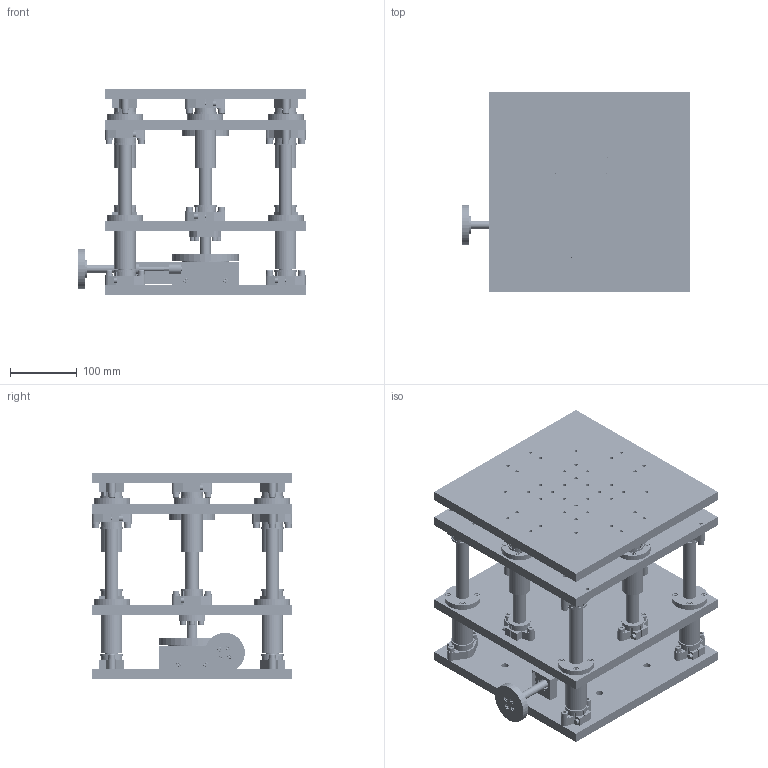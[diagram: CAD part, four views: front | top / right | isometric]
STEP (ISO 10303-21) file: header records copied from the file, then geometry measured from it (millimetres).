
FILE_DESCRIPTION (( 'STEP AP203' ), '1' );
FILE_NAME ('MOZ-300-50.STEP', '2014-05-30T08:57:15', ( '' ), ( '' ), 'SwSTEP 2.0', 'SolidWorks 2014', '' );
FILE_SCHEMA (( 'CONFIG_CONTROL_DESIGN' ));
Products named in the file (1): MOZ-300-50
Bounding box: 340 x 300 x 308 mm (x, y, z)
Volume: 6956969 mm3; surface area: 1427503.3 mm2
Topology: 215 solids, 215 shells, 4431 faces, 10723 edges, 6777 vertices
Faces by surface type: plane 2012, cylinder 1790, cone 399, bspline 230
Entity records: 134498 total; most frequent: CARTESIAN_POINT 29000, DIRECTION 23077, ORIENTED_EDGE 21018, EDGE_CURVE 10509, AXIS2_PLACEMENT_3D 8979, VERTEX_POINT 6777, EDGE_LOOP 5368, LINE 5119
